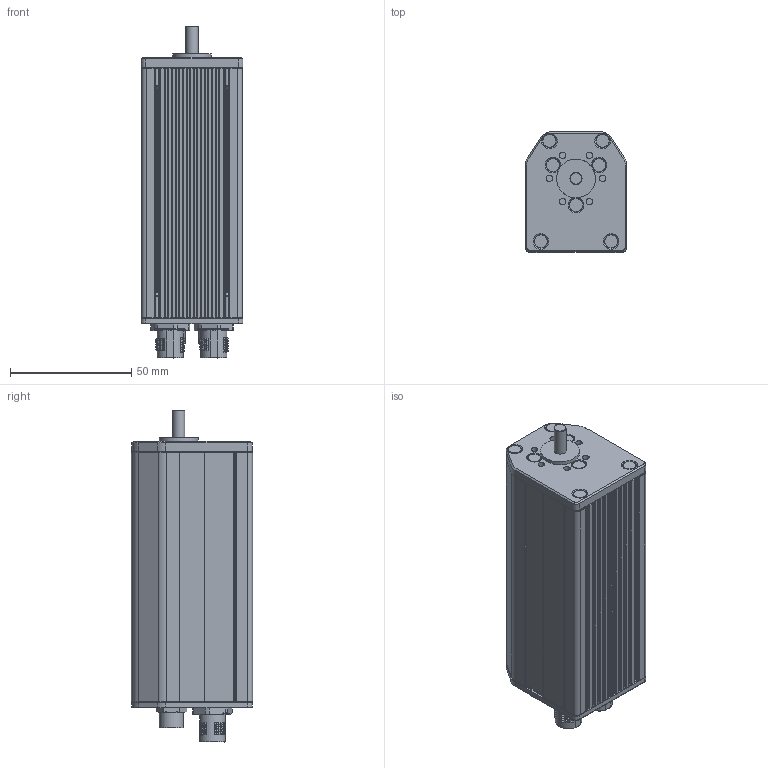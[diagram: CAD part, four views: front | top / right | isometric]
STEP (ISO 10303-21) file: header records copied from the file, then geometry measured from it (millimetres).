
FILE_DESCRIPTION(/* description */ (''),/* implementation_level */ '2;1');
FILE_NAME(/* name */ 'MCS_ET_axial_L110_2.stp',/* time_stamp */ '2017-04-18T08:18:03+02:00',/* author */ ('DR. FRITZ FAULHABER GmbH & Co. KG'),/* organization */ ('DR. FRITZ FAULHABER GmbH & Co. KG'),/* preprocessor_version */ 'ST-DEVELOPER v16',/* originating_system */ 'SIEMENS PLM Software NX 10.0',/* authorisation */ '');
FILE_SCHEMA (('AUTOMOTIVE_DESIGN { 1 0 10303 214 3 1 1 1 }'));
Products named in the file (1): H00001117_B
Bounding box: 42 x 50 x 137.1 mm (x, y, z)
Volume: 212454.6 mm3; surface area: 33723.7 mm2
Topology: 1 solids, 5 shells, 1393 faces, 3512 edges, 2185 vertices
Faces by surface type: plane 561, cylinder 440, bspline 178, cone 88, torus 76, sphere 32, extrusion 18
Full cylindrical faces by diameter (mm): 1.5 x5, 2.7 x6, 2.9 x2, 3.3 x2, 3.4 x2, 5 x1, 5.5 x11, 6.1 x2, 8.3 x2, 12.6 x2, 16 x1
Entity records: 56429 total; most frequent: CARTESIAN_POINT 25205, ORIENTED_EDGE 6768, DIRECTION 6017, EDGE_CURVE 3384, AXIS2_PLACEMENT_3D 2228, VERTEX_POINT 2148, VECTOR 1561, EDGE_LOOP 1544
